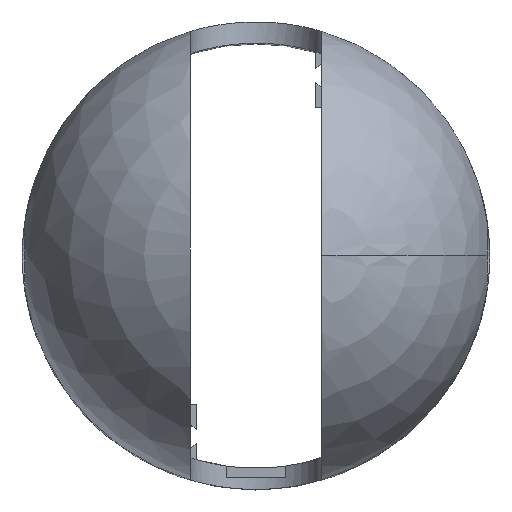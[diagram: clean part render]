
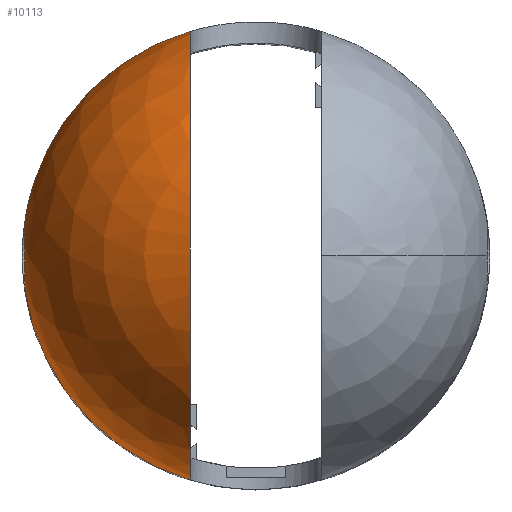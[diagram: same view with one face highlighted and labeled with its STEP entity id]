
A CAD part, top view. The second image highlights one B-rep face of the part: STEP entity #10113.
In plain terms, the highlighted spherical face has radius 55 mm.
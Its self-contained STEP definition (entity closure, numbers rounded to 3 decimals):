
#2599=CARTESIAN_POINT('',(-15.5,52.771,100.));
#4840=CARTESIAN_POINT('',(0.,0.,100.));
#4841=DIRECTION('',(0.,0.,-1.));
#4842=DIRECTION('',(-0.961,0.278,0.));
#4843=AXIS2_PLACEMENT_3D('',#4840,#4841,#4842);
#4848=CARTESIAN_POINT('',(-15.5,0.,100.));
#4849=DIRECTION('',(1.,0.,0.));
#4850=DIRECTION('',(0.,1.,0.));
#4851=AXIS2_PLACEMENT_3D('',#4848,#4849,#4850);
#4856=CARTESIAN_POINT('',(0.,0.,100.));
#4857=DIRECTION('',(0.,0.,-1.));
#4858=DIRECTION('',(-0.282,-0.959,0.));
#4859=AXIS2_PLACEMENT_3D('',#4856,#4857,#4858);
#4864=CARTESIAN_POINT('',(-54.385,0.,100.));
#4865=DIRECTION('',(-1.,0.,0.));
#4866=DIRECTION('',(0.,-0.904,0.427));
#4867=AXIS2_PLACEMENT_3D('',#4864,#4865,#4866);
#4872=CARTESIAN_POINT('',(-54.385,0.,100.));
#4873=DIRECTION('',(-1.,0.,0.));
#4874=DIRECTION('',(0.,0.,1.));
#4875=AXIS2_PLACEMENT_3D('',#4872,#4873,#4874);
#4880=CARTESIAN_POINT('',(0.,15.3,100.));
#4881=DIRECTION('',(0.,-1.,0.));
#4882=DIRECTION('',(-0.998,0.,0.066));
#4883=AXIS2_PLACEMENT_3D('',#4880,#4881,#4882);
#4902=CARTESIAN_POINT('',(0.,-15.3,100.));
#4903=DIRECTION('',(0.,1.,0.));
#4904=DIRECTION('',(-1.,0.,0.));
#4905=AXIS2_PLACEMENT_3D('',#4902,#4903,#4904);
#5549=CARTESIAN_POINT('',(0.,0.,103.5));
#5550=DIRECTION('',(0.,0.,1.));
#5551=DIRECTION('',(-0.96,0.279,0.));
#5552=AXIS2_PLACEMENT_3D('',#5549,#5550,#5551);
#5646=CARTESIAN_POINT('',(0.,0.,103.5));
#5647=DIRECTION('',(0.,0.,1.));
#5648=DIRECTION('',(-0.991,-0.135,0.));
#5649=AXIS2_PLACEMENT_3D('',#5646,#5647,#5648);
#6590=VERTEX_POINT('',#2599);
#6591=CARTESIAN_POINT('',(-52.829,15.3,100.));
#6592=VERTEX_POINT('',#6591);
#6601=CARTESIAN_POINT('',(-52.829,-15.3,100.));
#6602=VERTEX_POINT('',#6601);
#6603=CARTESIAN_POINT('',(-15.5,-52.771,100.));
#6604=VERTEX_POINT('',#6603);
#6850=CARTESIAN_POINT('',(-52.713,-15.3,103.5));
#6851=VERTEX_POINT('',#6850);
#6852=CARTESIAN_POINT('',(-54.385,-7.416,103.5));
#6853=VERTEX_POINT('',#6852);
#6854=CARTESIAN_POINT('',(-54.385,0.,108.2));
#6855=CARTESIAN_POINT('',(-54.385,7.416,103.5));
#6856=VERTEX_POINT('',#6854);
#6857=VERTEX_POINT('',#6855);
#6858=CARTESIAN_POINT('',(-52.713,15.3,103.5));
#6859=VERTEX_POINT('',#6858);
#10091=CARTESIAN_POINT('',(0.,0.,100.));
#10092=DIRECTION('',(0.,0.,1.));
#10093=DIRECTION('',(1.,0.,0.));
#10094=AXIS2_PLACEMENT_3D('',#10091,#10092,#10093);
#10095=SPHERICAL_SURFACE('',#10094,55.);
#10096=ORIENTED_EDGE('',*,*,#8607,.T.);
#10097=ORIENTED_EDGE('',*,*,#8566,.T.);
#10098=ORIENTED_EDGE('',*,*,#7385,.T.);
#10100=ORIENTED_EDGE('',*,*,#10099,.T.);
#10102=ORIENTED_EDGE('',*,*,#10101,.F.);
#10104=ORIENTED_EDGE('',*,*,#10103,.T.);
#10106=ORIENTED_EDGE('',*,*,#10105,.T.);
#10108=ORIENTED_EDGE('',*,*,#10107,.F.);
#10110=ORIENTED_EDGE('',*,*,#10109,.T.);
#10111=EDGE_LOOP('',(#10096,#10097,#10098,#10100,#10102,#10104,#10106,#10108,
#10110));
#10112=FACE_OUTER_BOUND('',#10111,.F.);
#4844=CIRCLE('',#4843,55.);
#4852=CIRCLE('',#4851,52.771);
#4860=CIRCLE('',#4859,55.);
#4868=CIRCLE('',#4867,8.2);
#4876=CIRCLE('',#4875,8.2);
#4884=CIRCLE('',#4883,52.829);
#4906=CIRCLE('',#4905,52.829);
#5553=CIRCLE('',#5552,54.889);
#5650=CIRCLE('',#5649,54.889);
#7385=EDGE_CURVE('',#6604,#6602,#4860,.T.);
#8566=EDGE_CURVE('',#6590,#6604,#4852,.T.);
#8607=EDGE_CURVE('',#6592,#6590,#4844,.T.);
#10099=EDGE_CURVE('',#6602,#6851,#4906,.T.);
#10101=EDGE_CURVE('',#6853,#6851,#5650,.T.);
#10103=EDGE_CURVE('',#6853,#6856,#4868,.T.);
#10105=EDGE_CURVE('',#6856,#6857,#4876,.T.);
#10107=EDGE_CURVE('',#6859,#6857,#5553,.T.);
#10109=EDGE_CURVE('',#6859,#6592,#4884,.T.);
#10113=ADVANCED_FACE('',(#10112),#10095,.T.);
